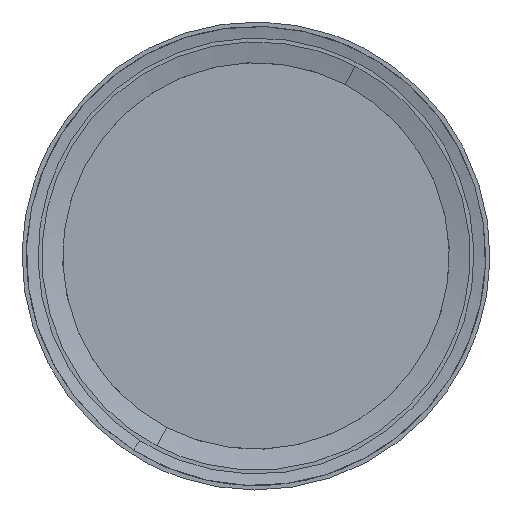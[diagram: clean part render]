
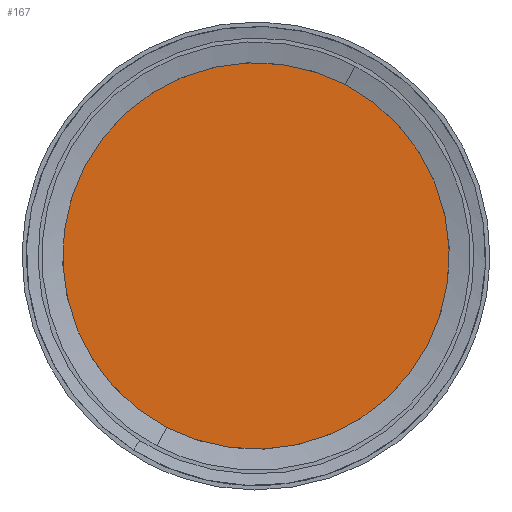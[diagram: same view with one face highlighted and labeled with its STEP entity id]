
A CAD part, left-side view. The second image highlights one B-rep face of the part: STEP entity #167.
In plain terms, the highlighted free-form (B-spline) face has degree [1, 1] with [2, 2] control points.
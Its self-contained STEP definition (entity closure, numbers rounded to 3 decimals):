
#167=ADVANCED_FACE('',(#336),#337,.T.);
#336=FACE_OUTER_BOUND('',#891,.T.);
#337=B_SPLINE_SURFACE_WITH_KNOTS('',1,1,((#892,#893),(#894,#895)),.UNSPECIFIED.,.F.,.F.,.F.,(2,2),(2,2),(0.0,76.0),(0.0,76.0),.UNSPECIFIED.);
#891=EDGE_LOOP('',(#1359,#1360,#1361));
#892=CARTESIAN_POINT('',(-13.166,-38.0,-38.0));
#893=CARTESIAN_POINT('',(-13.166,38.0,-38.0));
#894=CARTESIAN_POINT('',(-13.166,-38.0,38.0));
#895=CARTESIAN_POINT('',(-13.166,38.0,38.0));
#1359=ORIENTED_EDGE('',*,*,#1588,.T.);
#1360=ORIENTED_EDGE('',*,*,#1437,.T.);
#1361=ORIENTED_EDGE('',*,*,#1589,.T.);
#1437=EDGE_CURVE('',#1645,#1648,#1650,.T.);
#1588=EDGE_CURVE('',#1870,#1645,#1871,.T.);
#1589=EDGE_CURVE('',#1648,#1870,#1872,.T.);
#1645=VERTEX_POINT('',#2106);
#1648=VERTEX_POINT('',#2110);
#1650=(B_SPLINE_CURVE(2,(#2114,#2115,#2116,#2117,#2118),.UNSPECIFIED.,.F.,.F.)B_SPLINE_CURVE_WITH_KNOTS((3,2,3),(-1.571,0.,1.571),.UNSPECIFIED.)RATIONAL_B_SPLINE_CURVE((1.0,0.707,1.0,0.707,1.0))BOUNDED_CURVE()REPRESENTATION_ITEM('')GEOMETRIC_REPRESENTATION_ITEM()CURVE());
#1870=VERTEX_POINT('',#2746);
#1871=(B_SPLINE_CURVE(2,(#2748,#2749,#2750),.UNSPECIFIED.,.F.,.F.)B_SPLINE_CURVE_WITH_KNOTS((3,3),(-3.142,-1.571),.UNSPECIFIED.)RATIONAL_B_SPLINE_CURVE((1.0,0.707,1.0))BOUNDED_CURVE()REPRESENTATION_ITEM('')GEOMETRIC_REPRESENTATION_ITEM()CURVE());
#1872=(B_SPLINE_CURVE(2,(#2758,#2759,#2760),.UNSPECIFIED.,.F.,.F.)B_SPLINE_CURVE_WITH_KNOTS((3,3),(1.571,3.142),.UNSPECIFIED.)RATIONAL_B_SPLINE_CURVE((1.0,0.707,1.0))BOUNDED_CURVE()REPRESENTATION_ITEM('')GEOMETRIC_REPRESENTATION_ITEM()CURVE());
#2106=CARTESIAN_POINT('',(-13.166,-17.552,33.704));
#2110=CARTESIAN_POINT('',(-13.166,17.552,-33.704));
#2114=CARTESIAN_POINT('',(-13.166,-17.552,33.704));
#2115=CARTESIAN_POINT('',(-13.166,16.151,51.256));
#2116=CARTESIAN_POINT('',(-13.166,33.704,17.552));
#2117=CARTESIAN_POINT('',(-13.166,51.256,-16.151));
#2118=CARTESIAN_POINT('',(-13.166,17.552,-33.704));
#2746=CARTESIAN_POINT('',(-13.166,-33.704,-17.552));
#2748=CARTESIAN_POINT('',(-13.166,-33.704,-17.552));
#2749=CARTESIAN_POINT('',(-13.166,-51.256,16.151));
#2750=CARTESIAN_POINT('',(-13.166,-17.552,33.704));
#2758=CARTESIAN_POINT('',(-13.166,17.552,-33.704));
#2759=CARTESIAN_POINT('',(-13.166,-16.151,-51.256));
#2760=CARTESIAN_POINT('',(-13.166,-33.704,-17.552));
